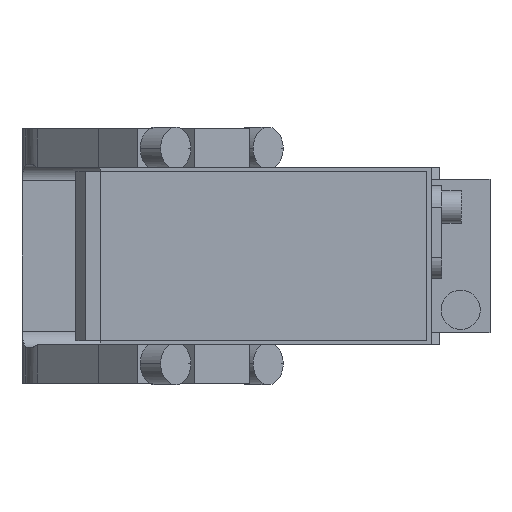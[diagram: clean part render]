
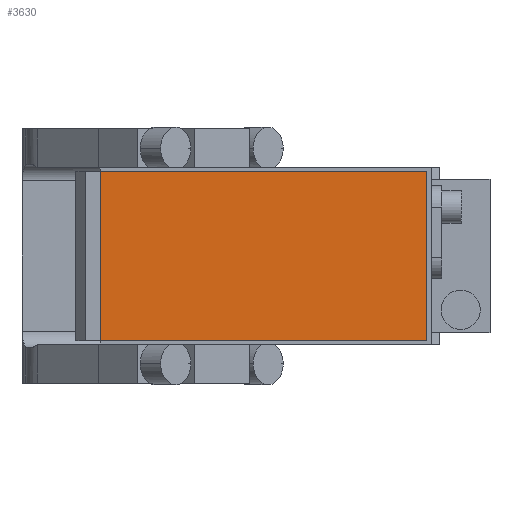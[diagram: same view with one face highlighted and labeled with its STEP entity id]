
A CAD part, front view. The second image highlights one B-rep face of the part: STEP entity #3630.
In plain terms, the highlighted planar face has unit normal (0, -1, 0).
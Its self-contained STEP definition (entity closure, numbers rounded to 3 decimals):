
#251 = LINE ( 'NONE', #8717, #7382 ) ;
#297 = LINE ( 'NONE', #4604, #4537 ) ;
#1813 = CARTESIAN_POINT ( 'NONE',  ( -19., -286.5, 26. ) ) ;
#2967 = DIRECTION ( 'NONE',  ( -1., 0., 0. ) ) ;
#2997 = FACE_OUTER_BOUND ( 'NONE', #3666, .T. ) ;
#3630 = ADVANCED_FACE ( 'NONE', ( #2997 ), #6041, .T. ) ;
#3666 = EDGE_LOOP ( 'NONE', ( #9628, #10652, #4505, #5361 ) ) ;
#4276 = DIRECTION ( 'NONE',  ( 0., 0., -1. ) ) ;
#4505 = ORIENTED_EDGE ( 'NONE', *, *, #9079, .T. ) ;
#4537 = VECTOR ( 'NONE', #7876, 1000. ) ;
#4604 = CARTESIAN_POINT ( 'NONE',  ( -19., -286.5, -26. ) ) ;
#4856 = LINE ( 'NONE', #13483, #4882 ) ;
#4882 = VECTOR ( 'NONE', #7915, 1000. ) ;
#4901 = VERTEX_POINT ( 'NONE', #13743 ) ;
#5306 = CARTESIAN_POINT ( 'NONE',  ( -19., -286.5, 26. ) ) ;
#5361 = ORIENTED_EDGE ( 'NONE', *, *, #11769, .T. ) ;
#5366 = AXIS2_PLACEMENT_3D ( 'NONE', #8240, #12553, #10507 ) ;
#6041 = PLANE ( 'NONE',  #5366 ) ;
#6971 = VERTEX_POINT ( 'NONE', #1813 ) ;
#7099 = CARTESIAN_POINT ( 'NONE',  ( 81., -286.5, -26. ) ) ;
#7382 = VECTOR ( 'NONE', #4276, 1000. ) ;
#7876 = DIRECTION ( 'NONE',  ( 1., 0., 0. ) ) ;
#7915 = DIRECTION ( 'NONE',  ( 0., 0., 1. ) ) ;
#8127 = VERTEX_POINT ( 'NONE', #7099 ) ;
#8240 = CARTESIAN_POINT ( 'NONE',  ( 0., -286.5, 0. ) ) ;
#8352 = LINE ( 'NONE', #5306, #13140 ) ;
#8717 = CARTESIAN_POINT ( 'NONE',  ( -19., -286.5, 26. ) ) ;
#9079 = EDGE_CURVE ( 'NONE', #8127, #10097, #4856, .T. ) ;
#9208 = EDGE_CURVE ( 'NONE', #6971, #4901, #251, .T. ) ;
#9628 = ORIENTED_EDGE ( 'NONE', *, *, #9208, .T. ) ;
#10097 = VERTEX_POINT ( 'NONE', #11159 ) ;
#10507 = DIRECTION ( 'NONE',  ( 0., 0., -1. ) ) ;
#10652 = ORIENTED_EDGE ( 'NONE', *, *, #11538, .T. ) ;
#11159 = CARTESIAN_POINT ( 'NONE',  ( 81., -286.5, 26. ) ) ;
#11538 = EDGE_CURVE ( 'NONE', #4901, #8127, #297, .T. ) ;
#11769 = EDGE_CURVE ( 'NONE', #10097, #6971, #8352, .T. ) ;
#12553 = DIRECTION ( 'NONE',  ( 0., -1., 0. ) ) ;
#13140 = VECTOR ( 'NONE', #2967, 1000. ) ;
#13483 = CARTESIAN_POINT ( 'NONE',  ( 81., -286.5, 26. ) ) ;
#13743 = CARTESIAN_POINT ( 'NONE',  ( -19., -286.5, -26. ) ) ;
